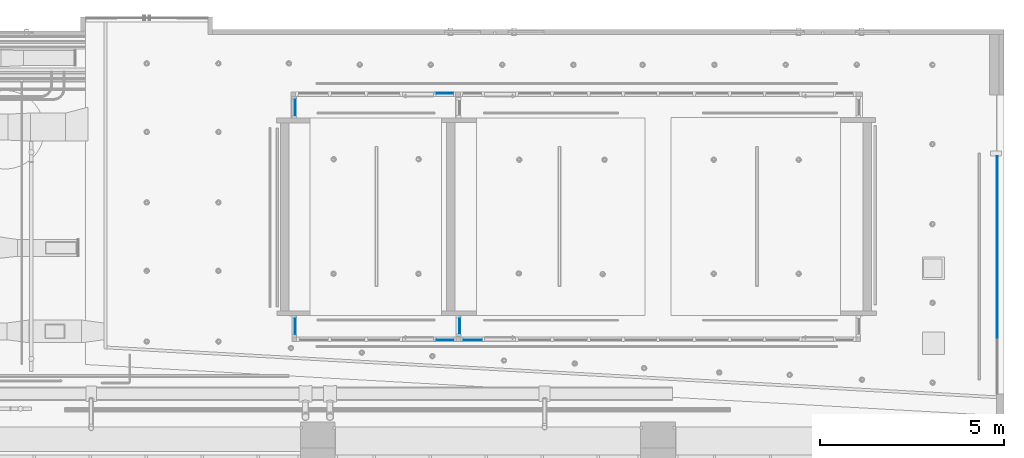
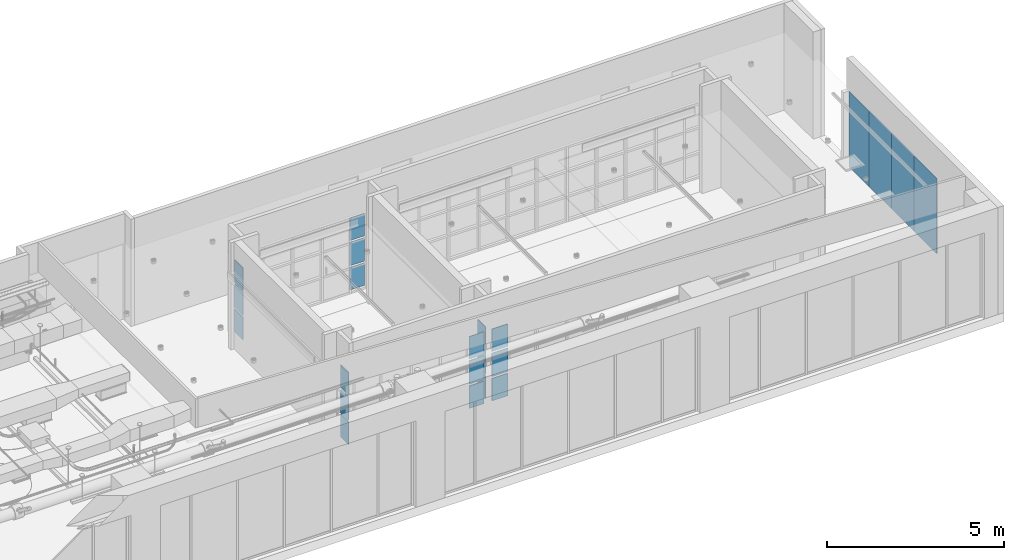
# One storey, part 15 of 108: 22 plates, 7 elements without a shape of their own.
"""IFC4 building model written with IfcOpenShell, lengths in feet."""

import ifcopenshell
import ifcopenshell.guid

model = None  # the IFC model being written
_history = None  # IfcOwnerHistory: only IFC2X3 demands one
_inside = {}  # id of a spatial element -> (the spatial element, [elements in it])
_under = {}  # id of a project, library or spatial element -> (it, [spatial elements below it])
_declared = {}  # id of a project -> (the project, [libraries it declares])
_typed = {}  # id of a type object -> (the type object, [elements of that type])
_made_of = {}  # id of a material, layer set ... -> (it, [elements and type objects made of it])


def new_model(schema):
    """Start an empty IFC model of exactly this schema.

    Asked for "IFC4X3", IfcOpenShell would pick the latest addendum, in which some entities
    have other attributes; the version numbers below select the first issue.
    IFC2X3 requires an IfcOwnerHistory on every rooted entity: one is made here for all.
    """
    global model, _history
    if schema == "IFC4X3":
        model = ifcopenshell.file(schema_version=(4, 3, 0, 0))
    else:
        model = ifcopenshell.file(schema=schema)
    _inside.clear()
    _under.clear()
    _declared.clear()
    _typed.clear()
    _made_of.clear()
    _history = None
    if model.schema == "IFC2X3":
        org = make("IfcOrganization", Name="unknown")
        user = make(
            "IfcPersonAndOrganization",
            ThePerson=make("IfcPerson", FamilyName="unknown"),
            TheOrganization=org,
        )
        app = make(
            "IfcApplication",
            ApplicationDeveloper=org,
            Version="unknown",
            ApplicationFullName="unknown",
            ApplicationIdentifier="unknown",
        )
        _history = make(
            "IfcOwnerHistory",
            OwningUser=user,
            OwningApplication=app,
            ChangeAction="ADDED",
            CreationDate=0,
        )
    return model


def make(cls, **values):
    """One entity of the class cls with the attributes given. An attribute that is None is left unset."""
    return model.create_entity(
        cls, **{name: value for name, value in values.items() if value is not None}
    )


def entity(cls, *values):
    """Any entity or typed value of the class cls, its attributes in the order of the schema. None: left unset."""
    e = model.create_entity(cls)
    for i, value in enumerate(values):
        if value is not None:
            e[i] = value
    return e


def rooted(cls, **values):
    """An entity with a GlobalId (a new one), such as an element, a storey or a relation."""
    return make(cls, GlobalId=ifcopenshell.guid.new(), OwnerHistory=_history, **values)


def si_unit(unit_type, name, prefix=None):
    """IfcSIUnit, for example si_unit("LENGTHUNIT", "METRE", prefix="MILLI")."""
    return make("IfcSIUnit", UnitType=unit_type, Prefix=prefix, Name=name)


def converted_unit(unit_type, name, factor, base, dimensions=None, offset=None):
    """IfcConversionBasedUnit, such as the inch: factor (a typed value) times the base unit."""
    return make(
        "IfcConversionBasedUnit"
        if offset is None
        else "IfcConversionBasedUnitWithOffset",
        ConversionOffset=offset,
        Dimensions=None
        if dimensions is None
        else entity("IfcDimensionalExponents", *dimensions),
        UnitType=unit_type,
        Name=name,
        ConversionFactor=make(
            "IfcMeasureWithUnit", ValueComponent=factor, UnitComponent=base
        ),
    )


def derived_unit(unit_type, elements):
    """IfcDerivedUnit: a product of units, each with its exponent."""
    return make(
        "IfcDerivedUnit",
        Elements=[
            make("IfcDerivedUnitElement", Unit=unit, Exponent=power)
            for unit, power in elements
        ],
        UnitType=unit_type,
    )


def assignment(units):
    """IfcUnitAssignment: the units of a project."""
    return None if units is None else make("IfcUnitAssignment", Units=units)


def point(xyz):
    """IfcCartesianPoint."""
    return None if xyz is None else make("IfcCartesianPoint", Coordinates=xyz)


def direction(xyz):
    """IfcDirection."""
    return None if xyz is None else make("IfcDirection", DirectionRatios=xyz)


def frame(location, z_axis=None, x_axis=None):
    """IfcAxis2Placement3D, a coordinate frame: its origin and axes. An axis left out is left unset."""
    return make(
        "IfcAxis2Placement3D",
        Location=point(location),
        Axis=direction(z_axis),
        RefDirection=direction(x_axis),
    )


def frame_2d(location, x_axis=None):
    """IfcAxis2Placement2D, a coordinate frame in the plane: its origin and x axis."""
    return make(
        "IfcAxis2Placement2D", Location=point(location), RefDirection=direction(x_axis)
    )


def origin():
    """The frame at (0, 0, 0) with its axes left unset."""
    return frame((0.0, 0.0, 0.0))


def origin_2d_with_axis():
    """The frame at (0, 0) in the plane with the x axis (1, 0) written out."""
    return frame_2d((0.0, 0.0), x_axis=(1.0, 0.0))


def place(relative_to, where):
    """IfcLocalPlacement: puts the frame where relative to a parent placement (None: the world)."""
    return make(
        "IfcLocalPlacement", PlacementRelTo=relative_to, RelativePlacement=where
    )


def context(
    kind, dimensions, precision=None, world=None, true_north=None, identifier=None
):
    """IfcGeometricRepresentationContext, for example the 3D "Model" context."""
    return make(
        "IfcGeometricRepresentationContext",
        ContextIdentifier=identifier,
        ContextType=kind,
        CoordinateSpaceDimension=dimensions,
        Precision=precision,
        WorldCoordinateSystem=world,
        TrueNorth=true_north,
    )


def subcontext(parent, identifier, kind, view, scale=None):
    """IfcGeometricRepresentationSubContext, for example "Body" below "Model"."""
    return make(
        "IfcGeometricRepresentationSubContext",
        ContextIdentifier=identifier,
        ContextType=kind,
        ParentContext=parent,
        TargetScale=scale,
        TargetView=view,
    )


def project(units=None, contexts=None):
    """IfcProject with its units and contexts."""
    return rooted(
        "IfcProject",
        Name="project",
        RepresentationContexts=contexts,
        UnitsInContext=assignment(units),
    )


def spatial(cls, under=None, at=None, **own):
    """A site, building, storey or space (cls), placed at a placement, below another one or the project."""
    s = rooted(cls, ObjectPlacement=at, **own)
    if under is not None:
        _under.setdefault(under.id(), (under, []))[1].append(s)
    return s


def profile(cls, at=None, kind="AREA", **sizes):
    """A parametric profile (cls). Its sizes go by their IFC names, for example OverallWidth=200.0."""
    return make(cls, ProfileType=kind, Position=at, **sizes)


def rectangle(**sizes):
    """IfcRectangleProfileDef."""
    return profile("IfcRectangleProfileDef", **sizes)


def extrude(swept, where, along, depth):
    """IfcExtrudedAreaSolid: the profile swept, set in the frame where, extruded along a direction by depth."""
    return make(
        "IfcExtrudedAreaSolid",
        SweptArea=swept,
        Position=where,
        ExtrudedDirection=direction(along),
        Depth=depth,
    )


def shape(context_of_items, identifier, shape_type, items):
    """IfcShapeRepresentation: the items that make up one representation, for example the "Body"."""
    return make(
        "IfcShapeRepresentation",
        ContextOfItems=context_of_items,
        RepresentationIdentifier=identifier,
        RepresentationType=shape_type,
        Items=items,
    )


def source(mapping_origin, context_of_items, identifier, shape_type, items):
    """IfcRepresentationMap: a shape defined once, which mapped items show again and again."""
    return make(
        "IfcRepresentationMap",
        MappingOrigin=mapping_origin,
        MappedRepresentation=shape(context_of_items, identifier, shape_type, items),
    )


def transform(
    local_origin,
    x_axis=None,
    y_axis=None,
    z_axis=None,
    scale=None,
    scale2=None,
    scale3=None,
    uniform=True,
):
    """IfcCartesianTransformationOperator3D, or its non-uniform kind. x_axis, y_axis, z_axis: its Axis1, 2, 3."""
    if uniform:
        return make(
            "IfcCartesianTransformationOperator3D",
            Axis1=direction(x_axis),
            Axis2=direction(y_axis),
            LocalOrigin=point(local_origin),
            Scale=scale,
            Axis3=direction(z_axis),
        )
    return make(
        "IfcCartesianTransformationOperator3DnonUniform",
        Axis1=direction(x_axis),
        Axis2=direction(y_axis),
        LocalOrigin=point(local_origin),
        Scale=scale,
        Axis3=direction(z_axis),
        Scale2=scale2,
        Scale3=scale3,
    )


def mapped(mapping_source, mapping_target):
    """IfcMappedItem: shows the shape of a source again, moved by a transform."""
    return make(
        "IfcMappedItem", MappingSource=mapping_source, MappingTarget=mapping_target
    )


def material(Name=None, Category=None):
    """IfcMaterial."""
    return make("IfcMaterial", Name=Name, Category=Category)


def layer(
    of_material, thickness, ventilated=None, Name=None, Category=None, Priority=None
):
    """IfcMaterialLayer: one layer of a wall or slab, of a material (None: an air gap)."""
    return make(
        "IfcMaterialLayer",
        Material=of_material,
        LayerThickness=thickness,
        IsVentilated=ventilated,
        Name=Name,
        Category=Category,
        Priority=Priority,
    )


def layer_set(layers, Name=None):
    """IfcMaterialLayerSet."""
    return make("IfcMaterialLayerSet", MaterialLayers=layers, LayerSetName=Name)


def layer_usage(for_layer_set, set_direction, sense, offset, extent=None):
    """IfcMaterialLayerSetUsage: how a layer set lies in its element."""
    return make(
        "IfcMaterialLayerSetUsage",
        ForLayerSet=for_layer_set,
        LayerSetDirection=set_direction,
        DirectionSense=sense,
        OffsetFromReferenceLine=offset,
        ReferenceExtent=extent,
    )


def made_of(thing, what):
    """Note that an element or type object is made of a material, layer set ...; save() writes the relation."""
    if what is not None:
        _made_of.setdefault(what.id(), (what, []))[1].append(thing)
    return thing


def type_object(cls, material=None, **own):
    """A type object (cls), such as IfcWallType, which elements share."""
    return made_of(rooted(cls, **own), material)


def type_shapes(of_type, sources):
    """Give a type object the sources (RepresentationMaps) that its elements show as mapped items."""
    of_type.RepresentationMaps = sources


def element(
    cls,
    number,
    at=None,
    inside=None,
    cuts=None,
    type_object=None,
    material=None,
    context=None,
    identifier="Body",
    shape_type=None,
    held_by="IfcProductDefinitionShape",
    body=None,
    shapes=None,
    **own,
):
    """One element of the class cls, such as IfcWall. Its Tag is "e" and its number.

    at: its placement. inside: the storey or other place that contains it. cuts: it is an
    opening in that element (IfcRelVoidsElement). A single representation is given by context,
    identifier, shape_type and body (its items); several are given by shapes. held_by: the class
    of the entity that holds the representations. save() writes the other relations.
    """
    e = rooted(cls, Tag="e%d" % number, ObjectPlacement=at, **own)
    if body is not None:
        shapes = [shape(context, identifier, shape_type, body)]
    if shapes is not None:
        e.Representation = make(held_by, Representations=shapes)
    if inside is not None:
        _inside.setdefault(inside.id(), (inside, []))[1].append(e)
    if cuts is not None:
        rooted(
            "IfcRelVoidsElement", RelatingBuildingElement=cuts, RelatedOpeningElement=e
        )
    if type_object is not None:
        _typed.setdefault(type_object.id(), (type_object, []))[1].append(e)
    return made_of(e, material)


def aggregate(whole, parts):
    """IfcRelAggregates: a whole, such as a stair, and the parts it consists of."""
    return rooted("IfcRelAggregates", RelatingObject=whole, RelatedObjects=parts)


def save(model, path):
    """Write the relations noted so far, then the file.

    IfcRelAggregates (storeys below a building ...), IfcRelContainedInSpatialStructure (elements
    in a storey), IfcRelDefinesByType, IfcRelAssociatesMaterial and IfcRelDeclares: one each for
    every whole, place, type object, material and project.
    """
    for whole, parts in _under.values():
        aggregate(whole, parts)
    for where, things in _inside.values():
        rooted(
            "IfcRelContainedInSpatialStructure",
            RelatedElements=things,
            RelatingStructure=where,
        )
    for kind, things in _typed.values():
        rooted("IfcRelDefinesByType", RelatedObjects=things, RelatingType=kind)
    for what, things in _made_of.values():
        rooted("IfcRelAssociatesMaterial", RelatedObjects=things, RelatingMaterial=what)
    for by, libraries in _declared.values():
        rooted("IfcRelDeclares", RelatingContext=by, RelatedDefinitions=libraries)
    model.write(path)


model = new_model("IFC4")

# Units and contexts
model_context = context("Model", 3, precision=0.0001, world=origin(), true_north=direction((6.12303176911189e-17, 1.0)))
body_context = subcontext(model_context, "Body", "Model", "MODEL_VIEW")
footprint_context = subcontext(model_context, "FootPrint", "Model", "MODEL_VIEW")
ifc_project = project(units=[converted_unit("LENGTHUNIT", "FOOT", entity("IfcRatioMeasure", 0.3048), si_unit("LENGTHUNIT", "METRE"), dimensions=[1, 0, 0, 0, 0, 0, 0]), converted_unit("AREAUNIT", "SQUARE FOOT", entity("IfcRatioMeasure", 0.09290304), si_unit("AREAUNIT", "SQUARE_METRE"), dimensions=[2, 0, 0, 0, 0, 0, 0]), converted_unit("VOLUMEUNIT", "CUBIC FOOT", entity("IfcRatioMeasure", 0.028316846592), si_unit("VOLUMEUNIT", "CUBIC_METRE"), dimensions=[3, 0, 0, 0, 0, 0, 0]), converted_unit("PLANEANGLEUNIT", "DEGREE", entity("IfcRatioMeasure", 0.0174532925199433), si_unit("PLANEANGLEUNIT", "RADIAN"), dimensions=[0, 0, 0, 0, 0, 0, 0]), si_unit("MASSUNIT", "GRAM", prefix="KILO"), derived_unit("MASSDENSITYUNIT", [(si_unit("MASSUNIT", "GRAM", prefix="KILO"), 1), (si_unit("LENGTHUNIT", "METRE"), -3)]), si_unit("TIMEUNIT", "SECOND"), si_unit("FREQUENCYUNIT", "HERTZ"), si_unit("THERMODYNAMICTEMPERATUREUNIT", "DEGREE_CELSIUS"), derived_unit("THERMALTRANSMITTANCEUNIT", [(si_unit("MASSUNIT", "GRAM", prefix="KILO"), 1), (si_unit("THERMODYNAMICTEMPERATUREUNIT", "KELVIN"), -1), (si_unit("TIMEUNIT", "SECOND"), -3)]), derived_unit("VOLUMETRICFLOWRATEUNIT", [(si_unit("LENGTHUNIT", "METRE"), 3), (si_unit("TIMEUNIT", "SECOND"), -1)]), si_unit("ELECTRICCURRENTUNIT", "AMPERE"), si_unit("ELECTRICVOLTAGEUNIT", "VOLT"), si_unit("POWERUNIT", "WATT"), si_unit("FORCEUNIT", "NEWTON"), si_unit("ILLUMINANCEUNIT", "LUX"), si_unit("LUMINOUSFLUXUNIT", "LUMEN"), si_unit("LUMINOUSINTENSITYUNIT", "CANDELA"), derived_unit("USERDEFINED", [(si_unit("MASSUNIT", "GRAM", prefix="KILO"), -1), (si_unit("LENGTHUNIT", "METRE"), -2), (si_unit("TIMEUNIT", "SECOND"), 3), (si_unit("LUMINOUSFLUXUNIT", "LUMEN"), 1)]), derived_unit("LINEARVELOCITYUNIT", [(si_unit("LENGTHUNIT", "METRE"), 1), (si_unit("TIMEUNIT", "SECOND"), -1)]), si_unit("PRESSUREUNIT", "PASCAL"), derived_unit("USERDEFINED", [(si_unit("LENGTHUNIT", "METRE"), -2), (si_unit("MASSUNIT", "GRAM", prefix="KILO"), 1), (si_unit("TIMEUNIT", "SECOND"), -2)])], contexts=[model_context])

# Site, building, storey
site_placement = place(None, origin())
site = spatial("IfcSite", under=ifc_project, at=site_placement, Name="Default", CompositionType="ELEMENT")
building_placement = place(site_placement, origin())
building = spatial("IfcBuilding", under=site, at=building_placement, CompositionType="ELEMENT")
storey_placement = place(building_placement, frame((0.0, 0.0, 168.0)))
storey = spatial("IfcBuildingStorey", under=building, at=storey_placement, Name="Level 15", CompositionType="ELEMENT", Elevation=168.0)

# Curtain wall, plates
curtain_wall_type_1 = type_object("IfcCurtainWallType", Name="Curtain Wall:Storefront", PredefinedType="NOTDEFINED")
curtain_wall_1_placement = place(storey_placement, frame((0.0, 0.0, -168.0)))
curtain_wall_1 = element("IfcCurtainWall", 1, at=curtain_wall_1_placement, inside=storey, type_object=curtain_wall_type_1, Name="Curtain Wall:Storefront", ObjectType="Curtain Wall:Storefront", PredefinedType="NOTDEFINED")
ifc_material = material(Name="<Unnamed>")
ifc_layer = layer(ifc_material, 0.0833333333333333, Name="<Unnamed>")
ifc_layer_set = layer_set([ifc_layer], Name="System Panel:Glazed")
ifc_layer_usage_1 = layer_usage(ifc_layer_set, "AXIS3", "POSITIVE", 0.104166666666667)
plate_type_1 = type_object("IfcPlateType", Name="Glazed", PredefinedType="CURTAIN_PANEL", material=ifc_layer_set)
shared_shape_1 = source(origin(), body_context, "Body", "SweptSolid", [
    extrude(rectangle(XDim=0.0833333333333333, YDim=3.72916666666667, at=frame_2d((-6.93889390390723e-18, 0.0), x_axis=(1.0, 0.0))), frame((1.86458333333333, 0.0416666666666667, 0.0), z_axis=(0.0, 0.0, 1.0), x_axis=(0.0, 1.0, 0.0)), (0.0, 0.0, 1.0), 8.52282482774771),
])
cartesian_point_1 = entity("IfcCartesianPoint", [3.72916666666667, 0.0])
shared_shape_2 = source(frame((-1.86458333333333, 0.062499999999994, 0.0)), footprint_context, "FootPrint", "Curve2D", [
    entity("IfcPolyline", [cartesian_point_1, entity("IfcCartesianPoint", [3.72916666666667, 0.0833333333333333]), entity("IfcCartesianPoint", [0.0, 0.0833333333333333]), entity("IfcCartesianPoint", [0.0, 0.0]), cartesian_point_1]),
])
type_shapes(plate_type_1, [shared_shape_1, shared_shape_2])
plate_1_placement = place(curtain_wall_1_placement, frame((61.2337877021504, 4.46339763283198, 168.0), z_axis=(0.0, 0.0, 1.0), x_axis=(0.0, -1.0, 0.0)))
plate_1 = element("IfcPlate", 2, at=plate_1_placement, type_object=plate_type_1, material=ifc_layer_usage_1, Name="System Panel:Glazed", ObjectType="System Panel:Glazed", PredefinedType="CURTAIN_PANEL", shapes=[
    shape(body_context, "Body", "MappedRepresentation", [mapped(shared_shape_1, transform((0.0, 0.0, 0.0), scale=1.0))]),
    shape(body_context, "Body", "MappedRepresentation", [mapped(shared_shape_2, transform((0.0, 0.0, 0.0), scale=1.0))]),
])
ifc_layer_usage_2 = layer_usage(ifc_layer_set, "AXIS3", "POSITIVE", 0.104166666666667)
plate_type_2 = type_object("IfcPlateType", Name="Glazed", PredefinedType="CURTAIN_PANEL", material=ifc_layer_set)
shared_shape_3 = source(origin(), body_context, "Body", "SweptSolid", [
    extrude(rectangle(XDim=0.0833333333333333, YDim=4.16666666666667, at=frame_2d((-6.93889390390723e-18, 0.0), x_axis=(1.0, 0.0))), frame((2.08333333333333, 0.0416666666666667, 0.0), z_axis=(0.0, 0.0, 1.0), x_axis=(0.0, 1.0, 0.0)), (0.0, 0.0, 1.0), 8.52282482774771),
])
cartesian_point_2 = entity("IfcCartesianPoint", [4.16666666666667, 0.0])
shared_shape_4 = source(frame((-2.08333333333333, 0.0625000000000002, 0.0)), footprint_context, "FootPrint", "Curve2D", [
    entity("IfcPolyline", [cartesian_point_2, entity("IfcCartesianPoint", [4.16666666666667, 0.0833333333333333]), entity("IfcCartesianPoint", [0.0, 0.0833333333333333]), entity("IfcCartesianPoint", [0.0, 0.0]), cartesian_point_2]),
])
type_shapes(plate_type_2, [shared_shape_3, shared_shape_4])
plate_2_placement = place(curtain_wall_1_placement, frame((61.2337877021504, 0.734230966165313, 168.0), z_axis=(0.0, 0.0, 1.0), x_axis=(0.0, -1.0, 0.0)))
plate_2 = element("IfcPlate", 3, at=plate_2_placement, type_object=plate_type_2, material=ifc_layer_usage_2, Name="System Panel:Glazed", ObjectType="System Panel:Glazed", PredefinedType="CURTAIN_PANEL", shapes=[
    shape(body_context, "Body", "MappedRepresentation", [mapped(shared_shape_3, transform((0.0, 0.0, 0.0), scale=1.0))]),
    shape(body_context, "Body", "MappedRepresentation", [mapped(shared_shape_4, transform((0.0, 0.0, 0.0), scale=1.0))]),
])
ifc_layer_usage_3 = layer_usage(ifc_layer_set, "AXIS3", "POSITIVE", 0.104166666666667)
plate_3_placement = place(curtain_wall_1_placement, frame((61.2337877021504, -3.43243570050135, 168.0), z_axis=(0.0, 0.0, 1.0), x_axis=(0.0, -1.0, 0.0)))
plate_3 = element("IfcPlate", 4, at=plate_3_placement, type_object=plate_type_2, material=ifc_layer_usage_3, Name="System Panel:Glazed", ObjectType="System Panel:Glazed", PredefinedType="CURTAIN_PANEL", shapes=[
    shape(body_context, "Body", "MappedRepresentation", [mapped(shared_shape_3, transform((0.0, 0.0, 0.0), scale=1.0))]),
    shape(body_context, "Body", "MappedRepresentation", [mapped(shared_shape_4, transform((0.0, 0.0, 0.0), scale=1.0))]),
])
ifc_layer_usage_4 = layer_usage(ifc_layer_set, "AXIS3", "POSITIVE", 0.104166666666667)
plate_4_placement = place(curtain_wall_1_placement, frame((61.2337877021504, -7.59910236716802, 168.0), z_axis=(0.0, 0.0, 1.0), x_axis=(0.0, -1.0, 0.0)))
plate_4 = element("IfcPlate", 5, at=plate_4_placement, type_object=plate_type_2, material=ifc_layer_usage_4, Name="System Panel:Glazed", ObjectType="System Panel:Glazed", PredefinedType="CURTAIN_PANEL", shapes=[
    shape(body_context, "Body", "MappedRepresentation", [mapped(shared_shape_3, transform((0.0, 0.0, 0.0), scale=1.0))]),
    shape(body_context, "Body", "MappedRepresentation", [mapped(shared_shape_4, transform((0.0, 0.0, 0.0), scale=1.0))]),
])
aggregate(curtain_wall_1, [plate_1, plate_2, plate_3, plate_4])

curtain_wall_type_2 = type_object("IfcCurtainWallType", Name="Curtain Wall:Storefront 02", PredefinedType="NOTDEFINED")
curtain_wall_2_placement = place(storey_placement, frame((0.0, 0.0, -168.0)))
curtain_wall_2 = element("IfcCurtainWall", 6, at=curtain_wall_2_placement, inside=storey, type_object=curtain_wall_type_2, Name="Curtain Wall:Storefront 02", ObjectType="Curtain Wall:Storefront 02", PredefinedType="NOTDEFINED")
ifc_layer_usage_5 = layer_usage(ifc_layer_set, "AXIS3", "POSITIVE", 0.104166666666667)
plate_type_3 = type_object("IfcPlateType", Name="Glazed", PredefinedType="CURTAIN_PANEL", material=ifc_layer_set)
shared_shape_5 = source(origin(), body_context, "Body", "SweptSolid", [
    extrude(rectangle(XDim=0.0833333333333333, YDim=1.60416666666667, at=frame_2d((-6.93889390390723e-18, 5.55111512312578e-17), x_axis=(1.0, 0.0))), frame((0.802083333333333, 0.0416666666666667, 0.0), z_axis=(0.0, 0.0, 1.0), x_axis=(0.0, 1.0, 0.0)), (0.0, 0.0, 1.0), 2.52844160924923),
])
cartesian_point_3 = entity("IfcCartesianPoint", [1.60416666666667, 0.0])
shared_shape_6 = source(frame((-0.802083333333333, 0.0625, 0.0)), footprint_context, "FootPrint", "Curve2D", [
    entity("IfcPolyline", [cartesian_point_3, entity("IfcCartesianPoint", [1.60416666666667, 0.0833333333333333]), entity("IfcCartesianPoint", [0.0, 0.0833333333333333]), entity("IfcCartesianPoint", [0.0, 0.0]), cartesian_point_3]),
])
type_shapes(plate_type_3, [shared_shape_5, shared_shape_6])
plate_5_placement = place(curtain_wall_2_placement, frame((12.797037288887, -11.9427703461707, 168.208333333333), z_axis=(0.0, 0.0, 1.0), x_axis=(-1.0, 0.0, 0.0)))
plate_5 = element("IfcPlate", 7, at=plate_5_placement, type_object=plate_type_3, material=ifc_layer_usage_5, Name="System Panel:Glazed", ObjectType="System Panel:Glazed", PredefinedType="CURTAIN_PANEL", shapes=[
    shape(body_context, "Body", "MappedRepresentation", [mapped(shared_shape_5, transform((0.0, 0.0, 0.0), scale=1.0))]),
    shape(body_context, "Body", "MappedRepresentation", [mapped(shared_shape_6, transform((0.0, 0.0, 0.0), scale=1.0))]),
])
ifc_layer_usage_6 = layer_usage(ifc_layer_set, "AXIS3", "POSITIVE", 0.104166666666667)
plate_6_placement = place(curtain_wall_2_placement, frame((12.797037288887, -11.9427703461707, 173.786049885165), z_axis=(0.0, 0.0, 1.0), x_axis=(-1.0, 0.0, 0.0)))
plate_6 = element("IfcPlate", 8, at=plate_6_placement, type_object=plate_type_3, material=ifc_layer_usage_6, Name="System Panel:Glazed", ObjectType="System Panel:Glazed", PredefinedType="CURTAIN_PANEL", shapes=[
    shape(body_context, "Body", "MappedRepresentation", [mapped(shared_shape_5, transform((0.0, 0.0, 0.0), scale=1.0))]),
    shape(body_context, "Body", "MappedRepresentation", [mapped(shared_shape_6, transform((0.0, 0.0, 0.0), scale=1.0))]),
])

curtain_wall_3_placement = place(storey_placement, frame((0.0, 0.0, -168.0)))
curtain_wall_3 = element("IfcCurtainWall", 9, at=curtain_wall_3_placement, inside=storey, type_object=curtain_wall_type_2, Name="Curtain Wall:Storefront 02", ObjectType="Curtain Wall:Storefront 02", PredefinedType="NOTDEFINED")
ifc_layer_usage_7 = layer_usage(ifc_layer_set, "AXIS3", "POSITIVE", 0.104166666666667)
plate_type_4 = type_object("IfcPlateType", Name="Glazed", PredefinedType="CURTAIN_PANEL", material=ifc_layer_set)
shared_shape_7 = source(origin(), body_context, "Body", "SweptSolid", [
    extrude(rectangle(XDim=0.0833333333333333, YDim=1.6875, at=frame_2d((-6.93889390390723e-18, 0.0), x_axis=(1.0, 0.0))), frame((0.84375, 0.0416666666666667, 0.0), z_axis=(0.0, 0.0, 1.0), x_axis=(0.0, 1.0, 0.0)), (0.0, 0.0, 1.0), 2.52844160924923),
])
cartesian_point_4 = entity("IfcCartesianPoint", [1.6875, 0.0])
shared_shape_8 = source(frame((-0.843749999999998, 0.0625, 0.0)), footprint_context, "FootPrint", "Curve2D", [
    entity("IfcPolyline", [cartesian_point_4, entity("IfcCartesianPoint", [1.6875, 0.0833333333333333]), entity("IfcCartesianPoint", [0.0, 0.0833333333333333]), entity("IfcCartesianPoint", [0.0, 0.0]), cartesian_point_4]),
])
type_shapes(plate_type_4, [shared_shape_7, shared_shape_8])
plate_7_placement = place(curtain_wall_3_placement, frame((15.3178706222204, -11.9427703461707, 168.208333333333), z_axis=(0.0, 0.0, 1.0), x_axis=(-1.0, 0.0, 0.0)))
plate_7 = element("IfcPlate", 10, at=plate_7_placement, type_object=plate_type_4, material=ifc_layer_usage_7, Name="System Panel:Glazed", ObjectType="System Panel:Glazed", PredefinedType="CURTAIN_PANEL", shapes=[
    shape(body_context, "Body", "MappedRepresentation", [mapped(shared_shape_7, transform((0.0, 0.0, 0.0), scale=1.0))]),
    shape(body_context, "Body", "MappedRepresentation", [mapped(shared_shape_8, transform((0.0, 0.0, 0.0), scale=1.0))]),
])
ifc_layer_usage_8 = layer_usage(ifc_layer_set, "AXIS3", "POSITIVE", 0.104166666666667)
plate_8_placement = place(curtain_wall_3_placement, frame((15.3178706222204, -11.9427703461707, 173.786049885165), z_axis=(0.0, 0.0, 1.0), x_axis=(-1.0, 0.0, 0.0)))
plate_8 = element("IfcPlate", 11, at=plate_8_placement, type_object=plate_type_4, material=ifc_layer_usage_8, Name="System Panel:Glazed", ObjectType="System Panel:Glazed", PredefinedType="CURTAIN_PANEL", shapes=[
    shape(body_context, "Body", "MappedRepresentation", [mapped(shared_shape_7, transform((0.0, 0.0, 0.0), scale=1.0))]),
    shape(body_context, "Body", "MappedRepresentation", [mapped(shared_shape_8, transform((0.0, 0.0, 0.0), scale=1.0))]),
])

# Plate
ifc_layer_usage_9 = layer_usage(ifc_layer_set, "AXIS3", "POSITIVE", 0.104166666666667)
plate_type_5 = type_object("IfcPlateType", Name="Glazed", PredefinedType="CURTAIN_PANEL", material=ifc_layer_set)
shared_shape_9 = source(origin(), body_context, "Body", "SweptSolid", [
    extrude(rectangle(XDim=0.0833333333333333, YDim=1.60416666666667, at=frame_2d((-6.93889390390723e-18, 5.55111512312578e-17), x_axis=(1.0, 0.0))), frame((0.802083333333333, 0.0416666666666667, 0.0), z_axis=(0.0, 0.0, 1.0), x_axis=(0.0, 1.0, 0.0)), (0.0, 0.0, 1.0), 2.63260827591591),
])
cartesian_point_5 = entity("IfcCartesianPoint", [1.60416666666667, 0.0])
shared_shape_10 = source(frame((-0.802083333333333, 0.0625, 0.0)), footprint_context, "FootPrint", "Curve2D", [
    entity("IfcPolyline", [cartesian_point_5, entity("IfcCartesianPoint", [1.60416666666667, 0.0833333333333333]), entity("IfcCartesianPoint", [0.0, 0.0833333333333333]), entity("IfcCartesianPoint", [0.0, 0.0]), cartesian_point_5]),
])
type_shapes(plate_type_5, [shared_shape_9, shared_shape_10])
plate_9_placement = place(curtain_wall_2_placement, frame((12.797037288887, -11.9427703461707, 170.945108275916), z_axis=(0.0, 0.0, 1.0), x_axis=(-1.0, 0.0, 0.0)))
plate_9 = element("IfcPlate", 12, at=plate_9_placement, type_object=plate_type_5, material=ifc_layer_usage_9, Name="System Panel:Glazed", ObjectType="System Panel:Glazed", PredefinedType="CURTAIN_PANEL", shapes=[
    shape(body_context, "Body", "MappedRepresentation", [mapped(shared_shape_9, transform((0.0, 0.0, 0.0), scale=1.0))]),
    shape(body_context, "Body", "MappedRepresentation", [mapped(shared_shape_10, transform((0.0, 0.0, 0.0), scale=1.0))]),
])

aggregate(curtain_wall_2, [plate_5, plate_9, plate_6])

ifc_layer_usage_10 = layer_usage(ifc_layer_set, "AXIS3", "POSITIVE", 0.104166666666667)
plate_type_6 = type_object("IfcPlateType", Name="Glazed", PredefinedType="CURTAIN_PANEL", material=ifc_layer_set)
shared_shape_11 = source(origin(), body_context, "Body", "SweptSolid", [
    extrude(rectangle(XDim=0.0833333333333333, YDim=1.6875, at=frame_2d((-6.93889390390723e-18, 0.0), x_axis=(1.0, 0.0))), frame((0.84375, 0.0416666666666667, 0.0), z_axis=(0.0, 0.0, 1.0), x_axis=(0.0, 1.0, 0.0)), (0.0, 0.0, 1.0), 2.63260827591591),
])
cartesian_point_6 = entity("IfcCartesianPoint", [1.6875, 0.0])
shared_shape_12 = source(frame((-0.843749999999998, 0.0625, 0.0)), footprint_context, "FootPrint", "Curve2D", [
    entity("IfcPolyline", [cartesian_point_6, entity("IfcCartesianPoint", [1.6875, 0.0833333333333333]), entity("IfcCartesianPoint", [0.0, 0.0833333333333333]), entity("IfcCartesianPoint", [0.0, 0.0]), cartesian_point_6]),
])
type_shapes(plate_type_6, [shared_shape_11, shared_shape_12])
plate_10_placement = place(curtain_wall_3_placement, frame((15.3178706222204, -11.9427703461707, 170.945108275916), z_axis=(0.0, 0.0, 1.0), x_axis=(-1.0, 0.0, 0.0)))
plate_10 = element("IfcPlate", 13, at=plate_10_placement, type_object=plate_type_6, material=ifc_layer_usage_10, Name="System Panel:Glazed", ObjectType="System Panel:Glazed", PredefinedType="CURTAIN_PANEL", shapes=[
    shape(body_context, "Body", "MappedRepresentation", [mapped(shared_shape_11, transform((0.0, 0.0, 0.0), scale=1.0))]),
    shape(body_context, "Body", "MappedRepresentation", [mapped(shared_shape_12, transform((0.0, 0.0, 0.0), scale=1.0))]),
])

aggregate(curtain_wall_3, [plate_7, plate_10, plate_8])

# Curtain wall, plates
curtain_wall_4_placement = place(storey_placement, frame((0.0, 0.0, -168.0)))
curtain_wall_4 = element("IfcCurtainWall", 14, at=curtain_wall_4_placement, inside=storey, type_object=curtain_wall_type_2, Name="Curtain Wall:Storefront 02", ObjectType="Curtain Wall:Storefront 02", PredefinedType="NOTDEFINED")
ifc_layer_usage_11 = layer_usage(ifc_layer_set, "AXIS3", "POSITIVE", 0.104166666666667)
plate_type_7 = type_object("IfcPlateType", Name="Glazed", PredefinedType="CURTAIN_PANEL", material=ifc_layer_set)
shared_shape_13 = source(origin(), body_context, "Body", "SweptSolid", [
    extrude(rectangle(XDim=0.0833333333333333, YDim=1.41666666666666, at=frame_2d((-6.93889390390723e-18, 0.0), x_axis=(1.0, 0.0))), frame((0.708333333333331, 0.0416666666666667, 0.0), z_axis=(0.0, 0.0, 1.0), x_axis=(0.0, 1.0, 0.0)), (0.0, 0.0, 1.0), 2.52844160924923),
])
cartesian_point_7 = entity("IfcCartesianPoint", [1.41666666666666, 0.0])
shared_shape_14 = source(frame((-0.708333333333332, 0.0625000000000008, 0.0)), footprint_context, "FootPrint", "Curve2D", [
    entity("IfcPolyline", [cartesian_point_7, entity("IfcCartesianPoint", [1.41666666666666, 0.0833333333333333]), entity("IfcCartesianPoint", [0.0, 0.0833333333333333]), entity("IfcCartesianPoint", [0.0, 0.0]), cartesian_point_7]),
])
type_shapes(plate_type_7, [shared_shape_13, shared_shape_14])
plate_11_placement = place(curtain_wall_4_placement, frame((13.2762039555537, -9.98460105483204, 168.208333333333), z_axis=(0.0, 0.0, 1.0), x_axis=(0.0, -1.0, 0.0)))
plate_11 = element("IfcPlate", 15, at=plate_11_placement, type_object=plate_type_7, material=ifc_layer_usage_11, Name="System Panel:Glazed", ObjectType="System Panel:Glazed", PredefinedType="CURTAIN_PANEL", shapes=[
    shape(body_context, "Body", "MappedRepresentation", [mapped(shared_shape_13, transform((0.0, 0.0, 0.0), scale=1.0))]),
    shape(body_context, "Body", "MappedRepresentation", [mapped(shared_shape_14, transform((0.0, 0.0, 0.0), scale=1.0))]),
])
ifc_layer_usage_12 = layer_usage(ifc_layer_set, "AXIS3", "POSITIVE", 0.104166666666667)
plate_12_placement = place(curtain_wall_4_placement, frame((13.2762039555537, -9.98460105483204, 173.786049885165), z_axis=(0.0, 0.0, 1.0), x_axis=(0.0, -1.0, 0.0)))
plate_12 = element("IfcPlate", 16, at=plate_12_placement, type_object=plate_type_7, material=ifc_layer_usage_12, Name="System Panel:Glazed", ObjectType="System Panel:Glazed", PredefinedType="CURTAIN_PANEL", shapes=[
    shape(body_context, "Body", "MappedRepresentation", [mapped(shared_shape_13, transform((0.0, 0.0, 0.0), scale=1.0))]),
    shape(body_context, "Body", "MappedRepresentation", [mapped(shared_shape_14, transform((0.0, 0.0, 0.0), scale=1.0))]),
])
ifc_layer_usage_13 = layer_usage(ifc_layer_set, "AXIS3", "POSITIVE", 0.104166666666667)
plate_type_8 = type_object("IfcPlateType", Name="Glazed", PredefinedType="CURTAIN_PANEL", material=ifc_layer_set)
shared_shape_15 = source(origin(), body_context, "Body", "SweptSolid", [
    extrude(rectangle(XDim=0.0833333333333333, YDim=1.41666666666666, at=frame_2d((-6.93889390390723e-18, 0.0), x_axis=(1.0, 0.0))), frame((0.708333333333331, 0.0416666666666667, 0.0), z_axis=(0.0, 0.0, 1.0), x_axis=(0.0, 1.0, 0.0)), (0.0, 0.0, 1.0), 2.63260827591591),
])
cartesian_point_8 = entity("IfcCartesianPoint", [1.41666666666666, 0.0])
shared_shape_16 = source(frame((-0.708333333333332, 0.0625000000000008, 0.0)), footprint_context, "FootPrint", "Curve2D", [
    entity("IfcPolyline", [cartesian_point_8, entity("IfcCartesianPoint", [1.41666666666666, 0.0833333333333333]), entity("IfcCartesianPoint", [0.0, 0.0833333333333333]), entity("IfcCartesianPoint", [0.0, 0.0]), cartesian_point_8]),
])
type_shapes(plate_type_8, [shared_shape_15, shared_shape_16])
plate_13_placement = place(curtain_wall_4_placement, frame((13.2762039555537, -9.98460105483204, 170.945108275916), z_axis=(0.0, 0.0, 1.0), x_axis=(0.0, -1.0, 0.0)))
plate_13 = element("IfcPlate", 17, at=plate_13_placement, type_object=plate_type_8, material=ifc_layer_usage_13, Name="System Panel:Glazed", ObjectType="System Panel:Glazed", PredefinedType="CURTAIN_PANEL", shapes=[
    shape(body_context, "Body", "MappedRepresentation", [mapped(shared_shape_15, transform((0.0, 0.0, 0.0), scale=1.0))]),
    shape(body_context, "Body", "MappedRepresentation", [mapped(shared_shape_16, transform((0.0, 0.0, 0.0), scale=1.0))]),
])
aggregate(curtain_wall_4, [plate_11, plate_13, plate_12])

curtain_wall_5_placement = place(storey_placement, frame((0.0, 0.0, -168.0)))
curtain_wall_5 = element("IfcCurtainWall", 18, at=curtain_wall_5_placement, inside=storey, type_object=curtain_wall_type_2, Name="Curtain Wall:Storefront 02", ObjectType="Curtain Wall:Storefront 02", PredefinedType="NOTDEFINED")
ifc_layer_usage_14 = layer_usage(ifc_layer_set, "AXIS3", "POSITIVE", 0.104166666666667)
plate_type_9 = type_object("IfcPlateType", Name="Glazed", PredefinedType="CURTAIN_PANEL", material=ifc_layer_set)
shared_shape_17 = source(origin(), body_context, "Body", "SweptSolid", [
    extrude(rectangle(XDim=0.0833333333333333, YDim=1.47900262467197, at=frame_2d((-6.93889390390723e-18, 0.0), x_axis=(1.0, 0.0))), frame((0.739501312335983, 0.0416666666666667, 0.0), z_axis=(0.0, 0.0, 1.0), x_axis=(0.0, 1.0, 0.0)), (0.0, 0.0, 1.0), 2.52844160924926),
])
cartesian_point_9 = entity("IfcCartesianPoint", [1.47900262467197, 0.0])
shared_shape_18 = source(frame((-0.739501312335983, 0.0625000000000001, 0.0)), footprint_context, "FootPrint", "Curve2D", [
    entity("IfcPolyline", [cartesian_point_9, entity("IfcCartesianPoint", [1.47900262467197, 0.0833333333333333]), entity("IfcCartesianPoint", [0.0, 0.0833333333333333]), entity("IfcCartesianPoint", [0.0, 0.0]), cartesian_point_9]),
])
type_shapes(plate_type_9, [shared_shape_17, shared_shape_18])
plate_14_placement = place(curtain_wall_5_placement, frame((-1.39063140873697, -9.98460105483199, 168.208333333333), z_axis=(0.0, 0.0, 1.0), x_axis=(0.0, -1.0, 0.0)))
plate_14 = element("IfcPlate", 19, at=plate_14_placement, type_object=plate_type_9, material=ifc_layer_usage_14, Name="System Panel:Glazed", ObjectType="System Panel:Glazed", PredefinedType="CURTAIN_PANEL", shapes=[
    shape(body_context, "Body", "MappedRepresentation", [mapped(shared_shape_17, transform((0.0, 0.0, 0.0), scale=1.0))]),
    shape(body_context, "Body", "MappedRepresentation", [mapped(shared_shape_18, transform((0.0, 0.0, 0.0), scale=1.0))]),
])
ifc_layer_usage_15 = layer_usage(ifc_layer_set, "AXIS3", "POSITIVE", 0.104166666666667)
plate_15_placement = place(curtain_wall_5_placement, frame((-1.39063140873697, -9.98460105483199, 173.786049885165), z_axis=(0.0, 0.0, 1.0), x_axis=(0.0, -1.0, 0.0)))
plate_15 = element("IfcPlate", 20, at=plate_15_placement, type_object=plate_type_9, material=ifc_layer_usage_15, Name="System Panel:Glazed", ObjectType="System Panel:Glazed", PredefinedType="CURTAIN_PANEL", shapes=[
    shape(body_context, "Body", "MappedRepresentation", [mapped(shared_shape_17, transform((0.0, 0.0, 0.0), scale=1.0))]),
    shape(body_context, "Body", "MappedRepresentation", [mapped(shared_shape_18, transform((0.0, 0.0, 0.0), scale=1.0))]),
])
ifc_layer_usage_16 = layer_usage(ifc_layer_set, "AXIS3", "POSITIVE", 0.104166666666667)
plate_type_10 = type_object("IfcPlateType", Name="Glazed", PredefinedType="CURTAIN_PANEL", material=ifc_layer_set)
shared_shape_19 = source(origin(), body_context, "Body", "SweptSolid", [
    extrude(rectangle(XDim=0.0833333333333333, YDim=1.47900262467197, at=frame_2d((-6.93889390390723e-18, 0.0), x_axis=(1.0, 0.0))), frame((0.739501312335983, 0.0416666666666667, 0.0), z_axis=(0.0, 0.0, 1.0), x_axis=(0.0, 1.0, 0.0)), (0.0, 0.0, 1.0), 2.63260827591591),
])
cartesian_point_10 = entity("IfcCartesianPoint", [1.47900262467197, 0.0])
shared_shape_20 = source(frame((-0.739501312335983, 0.0625000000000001, 0.0)), footprint_context, "FootPrint", "Curve2D", [
    entity("IfcPolyline", [cartesian_point_10, entity("IfcCartesianPoint", [1.47900262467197, 0.0833333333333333]), entity("IfcCartesianPoint", [0.0, 0.0833333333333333]), entity("IfcCartesianPoint", [0.0, 0.0]), cartesian_point_10]),
])
type_shapes(plate_type_10, [shared_shape_19, shared_shape_20])
plate_16_placement = place(curtain_wall_5_placement, frame((-1.39063140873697, -9.98460105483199, 170.945108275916), z_axis=(0.0, 0.0, 1.0), x_axis=(0.0, -1.0, 0.0)))
plate_16 = element("IfcPlate", 21, at=plate_16_placement, type_object=plate_type_10, material=ifc_layer_usage_16, Name="System Panel:Glazed", ObjectType="System Panel:Glazed", PredefinedType="CURTAIN_PANEL", shapes=[
    shape(body_context, "Body", "MappedRepresentation", [mapped(shared_shape_19, transform((0.0, 0.0, 0.0), scale=1.0))]),
    shape(body_context, "Body", "MappedRepresentation", [mapped(shared_shape_20, transform((0.0, 0.0, 0.0), scale=1.0))]),
])
aggregate(curtain_wall_5, [plate_14, plate_16, plate_15])

curtain_wall_6_placement = place(storey_placement, frame((0.0, 0.0, -168.0)))
curtain_wall_6 = element("IfcCurtainWall", 22, at=curtain_wall_6_placement, inside=storey, type_object=curtain_wall_type_2, Name="Curtain Wall:Storefront 02", ObjectType="Curtain Wall:Storefront 02", PredefinedType="NOTDEFINED")
ifc_layer_usage_17 = layer_usage(ifc_layer_set, "AXIS3", "POSITIVE", 0.104166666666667)
plate_type_11 = type_object("IfcPlateType", Name="Glazed", PredefinedType="CURTAIN_PANEL", material=ifc_layer_set)
shared_shape_21 = source(origin(), body_context, "Body", "SweptSolid", [
    extrude(rectangle(XDim=0.0833333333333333, YDim=1.55623196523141, at=origin_2d_with_axis()), frame((0.778115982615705, 0.0416666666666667, 0.0), z_axis=(0.0, 0.0, 1.0), x_axis=(0.0, 1.0, 0.0)), (0.0, 0.0, 1.0), 2.52844160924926),
])
cartesian_point_11 = entity("IfcCartesianPoint", [1.55623196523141, 0.0])
shared_shape_22 = source(frame((-0.778115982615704, -0.145833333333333, 0.0)), footprint_context, "FootPrint", "Curve2D", [
    entity("IfcPolyline", [cartesian_point_11, entity("IfcCartesianPoint", [1.55623196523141, 0.0833333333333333]), entity("IfcCartesianPoint", [0.0, 0.0833333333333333]), entity("IfcCartesianPoint", [0.0, 0.0]), cartesian_point_11]),
])
type_shapes(plate_type_11, [shared_shape_21, shared_shape_22])
plate_17_placement = place(curtain_wall_6_placement, frame((12.7491025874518, 10.1064829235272, 168.208333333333), z_axis=(0.0, 0.0, 1.0), x_axis=(-1.0, 0.0, 0.0)))
plate_17 = element("IfcPlate", 23, at=plate_17_placement, type_object=plate_type_11, material=ifc_layer_usage_17, Name="System Panel:Glazed", ObjectType="System Panel:Glazed", PredefinedType="CURTAIN_PANEL", shapes=[
    shape(body_context, "Body", "MappedRepresentation", [mapped(shared_shape_21, transform((0.0, 0.0, 0.0), scale=1.0))]),
    shape(body_context, "Body", "MappedRepresentation", [mapped(shared_shape_22, transform((0.0, 0.0, 0.0), scale=1.0))]),
])
ifc_layer_usage_18 = layer_usage(ifc_layer_set, "AXIS3", "POSITIVE", 0.104166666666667)
plate_18_placement = place(curtain_wall_6_placement, frame((12.7491025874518, 10.1064829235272, 173.786049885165), z_axis=(0.0, 0.0, 1.0), x_axis=(-1.0, 0.0, 0.0)))
plate_18 = element("IfcPlate", 24, at=plate_18_placement, type_object=plate_type_11, material=ifc_layer_usage_18, Name="System Panel:Glazed", ObjectType="System Panel:Glazed", PredefinedType="CURTAIN_PANEL", shapes=[
    shape(body_context, "Body", "MappedRepresentation", [mapped(shared_shape_21, transform((0.0, 0.0, 0.0), scale=1.0))]),
    shape(body_context, "Body", "MappedRepresentation", [mapped(shared_shape_22, transform((0.0, 0.0, 0.0), scale=1.0))]),
])
ifc_layer_usage_19 = layer_usage(ifc_layer_set, "AXIS3", "POSITIVE", 0.104166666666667)
plate_type_12 = type_object("IfcPlateType", Name="Glazed", PredefinedType="CURTAIN_PANEL", material=ifc_layer_set)
shared_shape_23 = source(origin(), body_context, "Body", "SweptSolid", [
    extrude(rectangle(XDim=0.0833333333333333, YDim=1.55623196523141, at=origin_2d_with_axis()), frame((0.778115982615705, 0.0416666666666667, 0.0), z_axis=(0.0, 0.0, 1.0), x_axis=(0.0, 1.0, 0.0)), (0.0, 0.0, 1.0), 2.63260827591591),
])
cartesian_point_12 = entity("IfcCartesianPoint", [1.55623196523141, 0.0])
shared_shape_24 = source(frame((-0.778115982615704, -0.145833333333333, 0.0)), footprint_context, "FootPrint", "Curve2D", [
    entity("IfcPolyline", [cartesian_point_12, entity("IfcCartesianPoint", [1.55623196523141, 0.0833333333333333]), entity("IfcCartesianPoint", [0.0, 0.0833333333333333]), entity("IfcCartesianPoint", [0.0, 0.0]), cartesian_point_12]),
])
type_shapes(plate_type_12, [shared_shape_23, shared_shape_24])
plate_19_placement = place(curtain_wall_6_placement, frame((12.7491025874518, 10.1064829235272, 170.945108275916), z_axis=(0.0, 0.0, 1.0), x_axis=(-1.0, 0.0, 0.0)))
plate_19 = element("IfcPlate", 25, at=plate_19_placement, type_object=plate_type_12, material=ifc_layer_usage_19, Name="System Panel:Glazed", ObjectType="System Panel:Glazed", PredefinedType="CURTAIN_PANEL", shapes=[
    shape(body_context, "Body", "MappedRepresentation", [mapped(shared_shape_23, transform((0.0, 0.0, 0.0), scale=1.0))]),
    shape(body_context, "Body", "MappedRepresentation", [mapped(shared_shape_24, transform((0.0, 0.0, 0.0), scale=1.0))]),
])
aggregate(curtain_wall_6, [plate_17, plate_19, plate_18])

curtain_wall_7_placement = place(storey_placement, frame((0.0, 0.0, -168.0)))
curtain_wall_7 = element("IfcCurtainWall", 26, at=curtain_wall_7_placement, inside=storey, type_object=curtain_wall_type_2, Name="Curtain Wall:Storefront 02", ObjectType="Curtain Wall:Storefront 02", PredefinedType="NOTDEFINED")
ifc_layer_usage_20 = layer_usage(ifc_layer_set, "AXIS3", "POSITIVE", 0.104166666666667)
plate_type_13 = type_object("IfcPlateType", Name="Glazed", PredefinedType="CURTAIN_PANEL", material=ifc_layer_set)
shared_shape_25 = source(origin(), body_context, "Body", "SweptSolid", [
    extrude(rectangle(XDim=0.0833333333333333, YDim=1.51282823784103, at=origin_2d_with_axis()), frame((0.756414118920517, 0.0416666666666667, 0.0), z_axis=(0.0, 0.0, 1.0), x_axis=(0.0, 1.0, 0.0)), (0.0, 0.0, 1.0), 2.52844160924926),
])
cartesian_point_13 = entity("IfcCartesianPoint", [1.51282823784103, 0.0])
shared_shape_26 = source(frame((-0.756414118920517, -0.145833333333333, 0.0)), footprint_context, "FootPrint", "Curve2D", [
    entity("IfcPolyline", [cartesian_point_13, entity("IfcCartesianPoint", [1.51282823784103, 0.0833333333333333]), entity("IfcCartesianPoint", [0.0, 0.0833333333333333]), entity("IfcCartesianPoint", [0.0, 0.0]), cartesian_point_13]),
])
type_shapes(plate_type_13, [shared_shape_25, shared_shape_26])
plate_20_placement = place(curtain_wall_7_placement, frame((-1.30729807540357, 8.04398292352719, 168.208333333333), z_axis=(0.0, 0.0, 1.0), x_axis=(0.0, 1.0, 0.0)))
plate_20 = element("IfcPlate", 27, at=plate_20_placement, type_object=plate_type_13, material=ifc_layer_usage_20, Name="System Panel:Glazed", ObjectType="System Panel:Glazed", PredefinedType="CURTAIN_PANEL", shapes=[
    shape(body_context, "Body", "MappedRepresentation", [mapped(shared_shape_25, transform((0.0, 0.0, 0.0), scale=1.0))]),
    shape(body_context, "Body", "MappedRepresentation", [mapped(shared_shape_26, transform((0.0, 0.0, 0.0), scale=1.0))]),
])
ifc_layer_usage_21 = layer_usage(ifc_layer_set, "AXIS3", "POSITIVE", 0.104166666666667)
plate_21_placement = place(curtain_wall_7_placement, frame((-1.30729807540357, 8.04398292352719, 173.786049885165), z_axis=(0.0, 0.0, 1.0), x_axis=(0.0, 1.0, 0.0)))
plate_21 = element("IfcPlate", 28, at=plate_21_placement, type_object=plate_type_13, material=ifc_layer_usage_21, Name="System Panel:Glazed", ObjectType="System Panel:Glazed", PredefinedType="CURTAIN_PANEL", shapes=[
    shape(body_context, "Body", "MappedRepresentation", [mapped(shared_shape_25, transform((0.0, 0.0, 0.0), scale=1.0))]),
    shape(body_context, "Body", "MappedRepresentation", [mapped(shared_shape_26, transform((0.0, 0.0, 0.0), scale=1.0))]),
])
ifc_layer_usage_22 = layer_usage(ifc_layer_set, "AXIS3", "POSITIVE", 0.104166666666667)
plate_type_14 = type_object("IfcPlateType", Name="Glazed", PredefinedType="CURTAIN_PANEL", material=ifc_layer_set)
shared_shape_27 = source(origin(), body_context, "Body", "SweptSolid", [
    extrude(rectangle(XDim=0.0833333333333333, YDim=1.51282823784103, at=origin_2d_with_axis()), frame((0.756414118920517, 0.0416666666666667, 0.0), z_axis=(0.0, 0.0, 1.0), x_axis=(0.0, 1.0, 0.0)), (0.0, 0.0, 1.0), 2.63260827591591),
])
cartesian_point_14 = entity("IfcCartesianPoint", [1.51282823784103, 0.0])
shared_shape_28 = source(frame((-0.756414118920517, -0.145833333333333, 0.0)), footprint_context, "FootPrint", "Curve2D", [
    entity("IfcPolyline", [cartesian_point_14, entity("IfcCartesianPoint", [1.51282823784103, 0.0833333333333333]), entity("IfcCartesianPoint", [0.0, 0.0833333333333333]), entity("IfcCartesianPoint", [0.0, 0.0]), cartesian_point_14]),
])
type_shapes(plate_type_14, [shared_shape_27, shared_shape_28])
plate_22_placement = place(curtain_wall_7_placement, frame((-1.30729807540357, 8.04398292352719, 170.945108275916), z_axis=(0.0, 0.0, 1.0), x_axis=(0.0, 1.0, 0.0)))
plate_22 = element("IfcPlate", 29, at=plate_22_placement, type_object=plate_type_14, material=ifc_layer_usage_22, Name="System Panel:Glazed", ObjectType="System Panel:Glazed", PredefinedType="CURTAIN_PANEL", shapes=[
    shape(body_context, "Body", "MappedRepresentation", [mapped(shared_shape_27, transform((0.0, 0.0, 0.0), scale=1.0))]),
    shape(body_context, "Body", "MappedRepresentation", [mapped(shared_shape_28, transform((0.0, 0.0, 0.0), scale=1.0))]),
])
aggregate(curtain_wall_7, [plate_20, plate_22, plate_21])

save(model, "model.ifc")
